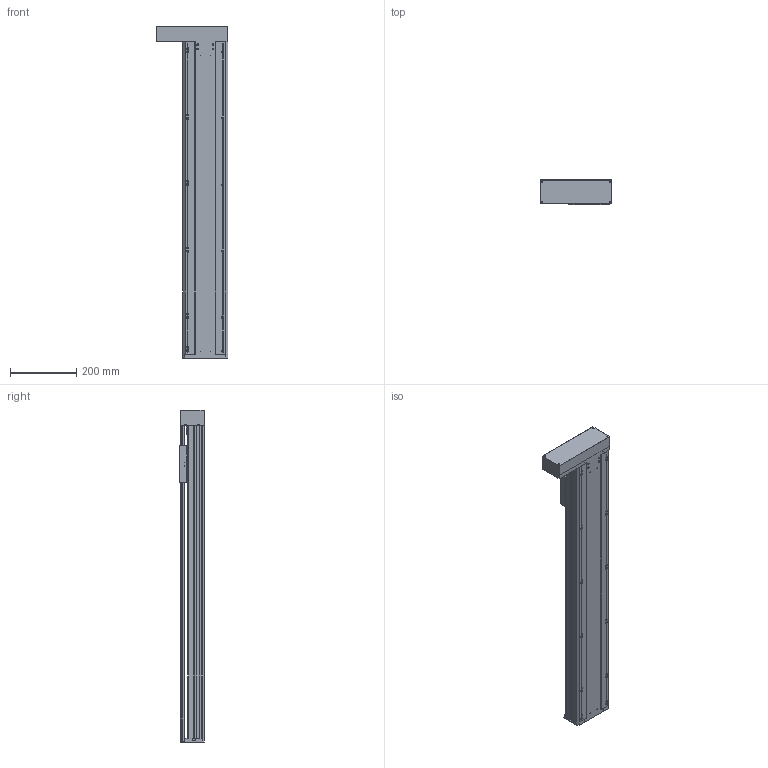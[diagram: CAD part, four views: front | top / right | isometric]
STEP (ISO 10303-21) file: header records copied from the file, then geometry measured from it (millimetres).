
FILE_DESCRIPTION(/* description */ (''),/* implementation_level */ '2;1');
FILE_NAME(/* name */ 'TKA136-FL-750_asm1.stp',/* time_stamp */ '2016-05-07T13:25:40+08:00',/* author */ (''),/* organization */ (''),/* preprocessor_version */ 'ST-DEVELOPER v15',/* originating_system */ 'SIEMENS PLM Software NX 8.5',/* authorisation */ '');
FILE_SCHEMA (('AUTOMOTIVE_DESIGN { 1 0 10303 214 3 1 1 1 }'));
Length unit declared in the file: millimetre
Products named in the file (3): 100-02; 100-01; TKA136-FL-750_asm1
Assembly tree (2 placements, depth 2):
  TKA136-FL-750_asm1
    100-01
    100-02
Bounding box: 216 x 75 x 1000 mm (x, y, z)
Volume: 3056534.3 mm3; surface area: 1211892.8 mm2
Topology: 2 solids, 12 shells, 902 faces, 2566 edges, 1675 vertices
Faces by surface type: cylinder 428, plane 423, cone 51
Full cylindrical faces by diameter (mm): 2.5 x14, 3 x2, 3.3 x13, 4 x4, 4.2 x6, 4.5 x24, 5 x20, 5.5 x26, 6.6 x16, 8 x20, 10 x9, 10.5 x12, 11 x4, 11.6 x1, 12 x9, 15 x3, 16 x5, 17 x1, 24 x5, 26 x1, 28 x1, 46 x1, 50 x1
Entity records: 30432 total; most frequent: CARTESIAN_POINT 8112, DIRECTION 4608, ORIENTED_EDGE 4350, EDGE_CURVE 2175, AXIS2_PLACEMENT_3D 1743, VERTEX_POINT 1552, EDGE_LOOP 1346, LINE 1122
